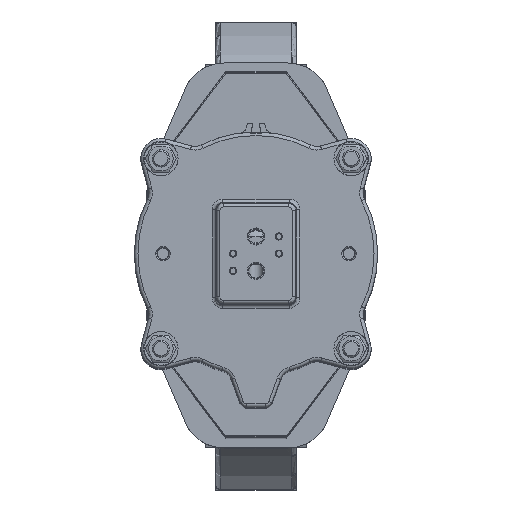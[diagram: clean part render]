
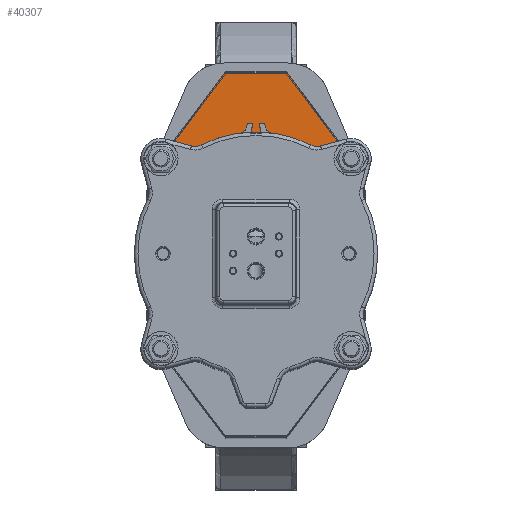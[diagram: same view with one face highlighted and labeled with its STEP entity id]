
A CAD part, top view. The second image highlights one B-rep face of the part: STEP entity #40307.
In plain terms, the highlighted planar face has unit normal (0, 0, 1).
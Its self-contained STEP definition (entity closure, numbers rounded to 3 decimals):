
#5969=FACE_OUTER_BOUND('',#8524,.T.);
#8524=EDGE_LOOP('',(#28506,#28507,#28508,#28509,#28510,#28511,#28512,#28513,
#28514,#28515));
#11483=LINE('',#63140,#14057);
#11555=LINE('',#63544,#14129);
#11559=LINE('',#63550,#14133);
#11564=LINE('',#63579,#14138);
#11565=LINE('',#63581,#14139);
#11566=LINE('',#63583,#14140);
#11567=LINE('',#63585,#14141);
#11568=LINE('',#63587,#14142);
#11569=LINE('',#63589,#14143);
#11570=LINE('',#63590,#14144);
#14057=VECTOR('',#49780,10.);
#14129=VECTOR('',#50040,10.);
#14133=VECTOR('',#50046,10.);
#14138=VECTOR('',#50081,10.);
#14139=VECTOR('',#50082,10.);
#14140=VECTOR('',#50083,10.);
#14141=VECTOR('',#50084,10.);
#14142=VECTOR('',#50085,10.);
#14143=VECTOR('',#50086,10.);
#14144=VECTOR('',#50087,10.);
#16865=VERTEX_POINT('',#63136);
#16867=VERTEX_POINT('',#63139);
#16985=VERTEX_POINT('',#63543);
#16986=VERTEX_POINT('',#63547);
#16995=VERTEX_POINT('',#63578);
#16996=VERTEX_POINT('',#63580);
#16997=VERTEX_POINT('',#63582);
#16998=VERTEX_POINT('',#63584);
#16999=VERTEX_POINT('',#63586);
#17000=VERTEX_POINT('',#63588);
#21112=EDGE_CURVE('',#16867,#16865,#11483,.T.);
#21263=EDGE_CURVE('',#16985,#16867,#11555,.T.);
#21267=EDGE_CURVE('',#16986,#16985,#11559,.T.);
#21280=EDGE_CURVE('',#16995,#16865,#11564,.T.);
#21281=EDGE_CURVE('',#16996,#16995,#11565,.T.);
#21282=EDGE_CURVE('',#16997,#16996,#11566,.T.);
#21283=EDGE_CURVE('',#16997,#16998,#11567,.T.);
#21284=EDGE_CURVE('',#16999,#16998,#11568,.T.);
#21285=EDGE_CURVE('',#17000,#16999,#11569,.T.);
#21286=EDGE_CURVE('',#16986,#17000,#11570,.T.);
#28506=ORIENTED_EDGE('',*,*,#21267,.T.);
#28507=ORIENTED_EDGE('',*,*,#21263,.T.);
#28508=ORIENTED_EDGE('',*,*,#21112,.T.);
#28509=ORIENTED_EDGE('',*,*,#21280,.F.);
#28510=ORIENTED_EDGE('',*,*,#21281,.F.);
#28511=ORIENTED_EDGE('',*,*,#21282,.F.);
#28512=ORIENTED_EDGE('',*,*,#21283,.T.);
#28513=ORIENTED_EDGE('',*,*,#21284,.F.);
#28514=ORIENTED_EDGE('',*,*,#21285,.F.);
#28515=ORIENTED_EDGE('',*,*,#21286,.F.);
#39204=PLANE('',#43384);
#40307=ADVANCED_FACE('',(#5969),#39204,.T.);
#43384=AXIS2_PLACEMENT_3D('',#63577,#50079,#50080);
#49780=DIRECTION('',(0.882,-0.471,0.));
#50040=DIRECTION('',(1.,0.,0.));
#50046=DIRECTION('',(0.882,0.471,0.));
#50079=DIRECTION('center_axis',(0.,0.,
1.));
#50080=DIRECTION('ref_axis',(-1.,0.,0.));
#50081=DIRECTION('',(-1.,0.,0.));
#50082=DIRECTION('',(0.,-1.,0.));
#50083=DIRECTION('',(0.594,-0.804,0.));
#50084=DIRECTION('',(-1.,0.,0.));
#50085=DIRECTION('',(0.594,0.804,0.));
#50086=DIRECTION('',(0.,1.,0.));
#50087=DIRECTION('',(-1.,0.,0.));
#63136=CARTESIAN_POINT('',(63.971,60.149,483.3));
#63139=CARTESIAN_POINT('',(60.5,62.,483.3));
#63140=CARTESIAN_POINT('',(-1.49,95.061,483.3));
#63543=CARTESIAN_POINT('',(-60.5,62.,483.3));
#63544=CARTESIAN_POINT('',(-30.25,62.,483.3));
#63547=CARTESIAN_POINT('',(-63.971,60.149,483.3));
#63550=CARTESIAN_POINT('',(-6.01,91.061,483.3));
#63577=CARTESIAN_POINT('Origin',(0.,247.149,
483.3));
#63578=CARTESIAN_POINT('',(65.,60.149,483.3));
#63579=CARTESIAN_POINT('',(65.,60.149,483.3));
#63580=CARTESIAN_POINT('',(65.,68.619,483.3));
#63581=CARTESIAN_POINT('',(65.,68.619,483.3));
#63582=CARTESIAN_POINT('',(22.17,126.565,483.3));
#63583=CARTESIAN_POINT('',(21.,128.149,483.3));
#63584=CARTESIAN_POINT('',(-22.17,126.565,483.3));
#63585=CARTESIAN_POINT('',(11.085,126.565,483.3));
#63586=CARTESIAN_POINT('',(-65.,68.619,483.3));
#63587=CARTESIAN_POINT('',(-65.,68.619,483.3));
#63588=CARTESIAN_POINT('',(-65.,60.149,483.3));
#63589=CARTESIAN_POINT('',(-65.,60.149,483.3));
#63590=CARTESIAN_POINT('',(65.,60.149,483.3));
